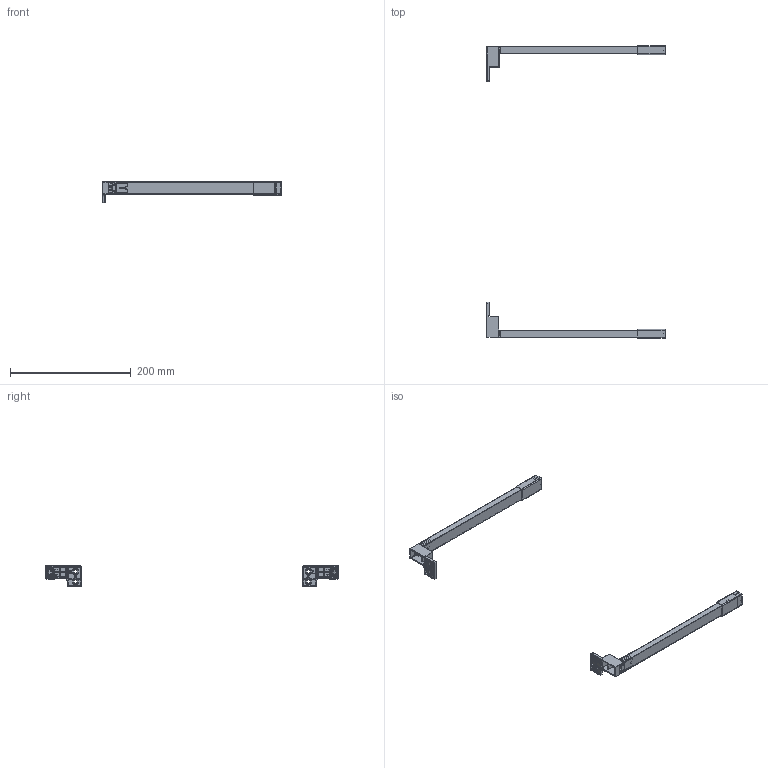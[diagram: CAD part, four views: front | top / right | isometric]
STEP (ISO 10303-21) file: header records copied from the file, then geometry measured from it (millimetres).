
FILE_DESCRIPTION(/* description */ (''),/* implementation_level */ '2;1');
FILE_NAME(/* name */ 'D:\$Workingspace\Designs\Katalog\Cadsoft\GTV Prowadnice\GTV 3D AXISPRO\Model\PB-AXISPRO-RELKW\PB-AXISPRO-RELKW-300.stp',/* time_stamp */ '2019-12-10T12:36:51+01:00',/* author */ ('tomaszw'),/* organization */ (''),/* preprocessor_version */ 'ST-DEVELOPER v17.2',/* originating_system */ 'Autodesk Inventor 2019',/* authorisation */ '');
FILE_SCHEMA (('AUTOMOTIVE_DESIGN { 1 0 10303 214 3 1 1 }'));
Products named in the file (12): RELING (PB-AXISPRO-RELKW)-01; reling L-01; Ö±°å³é¹Ì¶¨Ö
§¼Ü; reling-01; Ö±°å³é¹Ì¶¨Ö
§¼Ü_R; Ö±°å³é»î¶¯¿
é; Ö±°å³é½ºÌ×; Ö±°å³éÁ¬½Ó¿
é; CBZ·½¸ËÁ¬½Ó¼þ_
L; CBZ·½¸Ë-±³°åÁ¬
½Ó¼þ_L; CBZ·½¸ËÁ¬½Ó¼þ_
R; CBZ·½¸Ë-±³°åÁ¬
½Ó¼þ_R
Assembly tree (14 placements, depth 2):
  RELING (PB-AXISPRO-RELKW)-01
    reling L-01
    Ö±°å³é½ºÌ×  x2
    Ö±°å³é¹Ì¶¨Ö
§¼Ü
    Ö±°å³é»î¶¯¿
é  x2
    Ö±°å³éÁ¬½Ó¿
é  x2
    reling-01
    Ö±°å³é¹Ì¶¨Ö
§¼Ü_R
    CBZ·½¸ËÁ¬½Ó¼þ_
L
    CBZ·½¸Ë-±³°åÁ¬
½Ó¼þ_L
    CBZ·½¸ËÁ¬½Ó¼þ_
R
    CBZ·½¸Ë-±³°åÁ¬
½Ó¼þ_R
Bounding box: 295.37 x 483.35 x 35.9 mm (x, y, z)
Volume: 64277.1 mm3; surface area: 106093.7 mm2
Topology: 14 solids, 14 shells, 3788 faces, 9283 edges, 5206 vertices
Faces by surface type: cylinder 1612, plane 1022, torus 542, sphere 376, bspline 226, cone 10
Full cylindrical faces by diameter (mm): 4.5 x2, 8.4 x2
Entity records: 93484 total; most frequent: CARTESIAN_POINT 21306, DIRECTION 16166, ORIENTED_EDGE 14596, EDGE_CURVE 7298, AXIS2_PLACEMENT_3D 6242, VERTEX_POINT 4279, LINE 3682, VECTOR 3682
